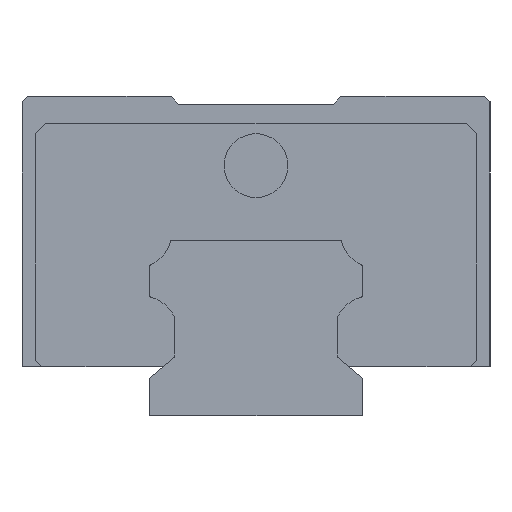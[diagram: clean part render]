
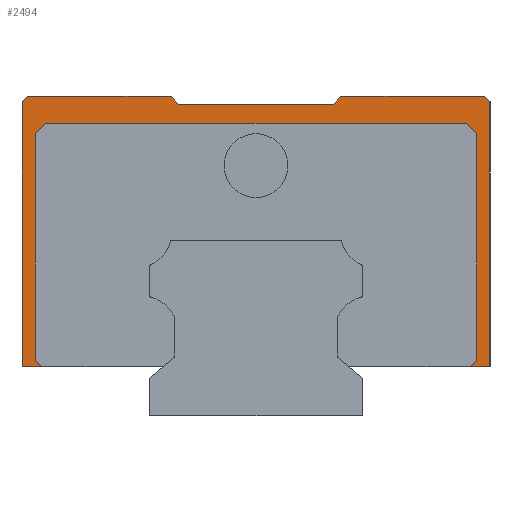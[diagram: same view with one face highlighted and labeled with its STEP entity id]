
A CAD part, left-side view. The second image highlights one B-rep face of the part: STEP entity #2494.
In plain terms, the highlighted planar face has unit normal (-1, 0, 0).
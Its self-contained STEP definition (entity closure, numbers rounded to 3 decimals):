
#11 = LINE ( 'NONE', #447, #3813 ) ;
#28 = LINE ( 'NONE', #2334, #5950 ) ;
#31 = ORIENTED_EDGE ( 'NONE', *, *, #5033, .F. ) ;
#33 = DIRECTION ( 'NONE',  ( 0., 0., 1. ) ) ;
#56 = VERTEX_POINT ( 'NONE', #3659 ) ;
#57 = EDGE_CURVE ( 'NONE', #1154, #263, #2252, .T. ) ;
#77 = VERTEX_POINT ( 'NONE', #5987 ) ;
#109 = ORIENTED_EDGE ( 'NONE', *, *, #2379, .F. ) ;
#128 = EDGE_CURVE ( 'NONE', #1164, #77, #4271, .T. ) ;
#170 = EDGE_CURVE ( 'NONE', #56, #4880, #2937, .T. ) ;
#184 = CARTESIAN_POINT ( 'NONE',  ( -39., 11.775, -3.775 ) ) ;
#263 = VERTEX_POINT ( 'NONE', #1172 ) ;
#299 = VECTOR ( 'NONE', #1305, 1000. ) ;
#333 = LINE ( 'NONE', #4065, #299 ) ;
#340 = DIRECTION ( 'NONE',  ( 0., 1., 0. ) ) ;
#348 = DIRECTION ( 'NONE',  ( 0., -1., 0. ) ) ;
#350 = CARTESIAN_POINT ( 'NONE',  ( -39., 7.333, 29.25 ) ) ;
#383 = CARTESIAN_POINT ( 'NONE',  ( -39., 20.75, 5.2 ) ) ;
#447 = CARTESIAN_POINT ( 'NONE',  ( -39., -22., 28. ) ) ;
#464 = CARTESIAN_POINT ( 'NONE',  ( -39., -20.75, 5.2 ) ) ;
#527 = PLANE ( 'NONE',  #3060 ) ;
#648 = VECTOR ( 'NONE', #5174, 1000. ) ;
#705 = EDGE_CURVE ( 'NONE', #2345, #5877, #2170, .T. ) ;
#740 = DIRECTION ( 'NONE',  ( 0., 1., 0. ) ) ;
#798 = CARTESIAN_POINT ( 'NONE',  ( -39., 22., 30. ) ) ;
#824 = ORIENTED_EDGE ( 'NONE', *, *, #1370, .T. ) ;
#835 = CARTESIAN_POINT ( 'NONE',  ( -39., 20.15, 4.6 ) ) ;
#908 = ORIENTED_EDGE ( 'NONE', *, *, #57, .T. ) ;
#953 = LINE ( 'NONE', #983, #1945 ) ;
#983 = CARTESIAN_POINT ( 'NONE',  ( -39., 22., 4.6 ) ) ;
#1106 = ORIENTED_EDGE ( 'NONE', *, *, #1609, .F. ) ;
#1154 = VERTEX_POINT ( 'NONE', #5432 ) ;
#1164 = VERTEX_POINT ( 'NONE', #2162 ) ;
#1172 = CARTESIAN_POINT ( 'NONE',  ( -39., -7.333, 29.25 ) ) ;
#1236 = DIRECTION ( 'NONE',  ( 0., 0.707, -0.707 ) ) ;
#1237 = VERTEX_POINT ( 'NONE', #383 ) ;
#1239 = VECTOR ( 'NONE', #4237, 1000. ) ;
#1252 = EDGE_CURVE ( 'NONE', #2854, #1237, #6021, .T. ) ;
#1305 = DIRECTION ( 'NONE',  ( 0., 0.707, 0.707 ) ) ;
#1324 = CARTESIAN_POINT ( 'NONE',  ( -39., -7.963, 30. ) ) ;
#1370 = EDGE_CURVE ( 'NONE', #263, #6127, #4394, .T. ) ;
#1476 = DIRECTION ( 'NONE',  ( 0., 0.707, -0.707 ) ) ;
#1507 = CARTESIAN_POINT ( 'NONE',  ( -39., -22., 30. ) ) ;
#1565 = DIRECTION ( 'NONE',  ( 0., -0.707, -0.707 ) ) ;
#1567 = VECTOR ( 'NONE', #5048, 1000. ) ;
#1609 = EDGE_CURVE ( 'NONE', #5488, #2854, #3597, .T. ) ;
#1633 = VECTOR ( 'NONE', #1476, 1000. ) ;
#1637 = EDGE_CURVE ( 'NONE', #6127, #5198, #3162, .T. ) ;
#1780 = VECTOR ( 'NONE', #1844, 1000. ) ;
#1784 = VECTOR ( 'NONE', #3550, 1000. ) ;
#1844 = DIRECTION ( 'NONE',  ( 0., 0., -1. ) ) ;
#1891 = EDGE_CURVE ( 'NONE', #5877, #1905, #333, .T. ) ;
#1905 = VERTEX_POINT ( 'NONE', #2200 ) ;
#1945 = VECTOR ( 'NONE', #33, 1000. ) ;
#1972 = CARTESIAN_POINT ( 'NONE',  ( -39., 22., 4.6 ) ) ;
#2128 = EDGE_CURVE ( 'NONE', #3501, #4258, #4469, .T. ) ;
#2133 = VECTOR ( 'NONE', #1565, 1000. ) ;
#2141 = CARTESIAN_POINT ( 'NONE',  ( -39., -21.5, 30. ) ) ;
#2162 = CARTESIAN_POINT ( 'NONE',  ( -39., -22., 4.6 ) ) ;
#2170 = LINE ( 'NONE', #4599, #2843 ) ;
#2200 = CARTESIAN_POINT ( 'NONE',  ( -39., -19.75, 27.5 ) ) ;
#2237 = ORIENTED_EDGE ( 'NONE', *, *, #128, .F. ) ;
#2252 = LINE ( 'NONE', #1324, #648 ) ;
#2305 = CARTESIAN_POINT ( 'NONE',  ( -39., 7.963, 30. ) ) ;
#2325 = ORIENTED_EDGE ( 'NONE', *, *, #5439, .F. ) ;
#2334 = CARTESIAN_POINT ( 'NONE',  ( -39., -33.775, 18.225 ) ) ;
#2345 = VERTEX_POINT ( 'NONE', #464 ) ;
#2371 = CARTESIAN_POINT ( 'NONE',  ( -39., -20.75, 26.5 ) ) ;
#2379 = EDGE_CURVE ( 'NONE', #5570, #4880, #953, .T. ) ;
#2494 = ADVANCED_FACE ( 'NONE', ( #3338 ), #527, .F. ) ;
#2578 = VECTOR ( 'NONE', #740, 1000. ) ;
#2583 = VECTOR ( 'NONE', #340, 1000. ) ;
#2621 = ORIENTED_EDGE ( 'NONE', *, *, #3275, .F. ) ;
#2649 = LINE ( 'NONE', #4009, #2583 ) ;
#2717 = ORIENTED_EDGE ( 'NONE', *, *, #1637, .T. ) ;
#2719 = LINE ( 'NONE', #798, #4055 ) ;
#2745 = LINE ( 'NONE', #6011, #2578 ) ;
#2843 = VECTOR ( 'NONE', #5411, 1000. ) ;
#2854 = VERTEX_POINT ( 'NONE', #4808 ) ;
#2937 = LINE ( 'NONE', #3804, #1633 ) ;
#3001 = DIRECTION ( 'NONE',  ( 0., 1., 0. ) ) ;
#3028 = ORIENTED_EDGE ( 'NONE', *, *, #5202, .F. ) ;
#3060 = AXIS2_PLACEMENT_3D ( 'NONE', #1507, #4360, #3001 ) ;
#3162 = LINE ( 'NONE', #350, #1567 ) ;
#3190 = CARTESIAN_POINT ( 'NONE',  ( -39., 7.333, 29.25 ) ) ;
#3275 = EDGE_CURVE ( 'NONE', #3501, #1164, #11, .T. ) ;
#3338 = FACE_OUTER_BOUND ( 'NONE', #5310, .T. ) ;
#3340 = CARTESIAN_POINT ( 'NONE',  ( -39., -22., 4.6 ) ) ;
#3435 = CARTESIAN_POINT ( 'NONE',  ( -39., -22., 29.5 ) ) ;
#3456 = VERTEX_POINT ( 'NONE', #835 ) ;
#3501 = VERTEX_POINT ( 'NONE', #3600 ) ;
#3550 = DIRECTION ( 'NONE',  ( 0., -1., 0. ) ) ;
#3597 = LINE ( 'NONE', #5494, #4239 ) ;
#3600 = CARTESIAN_POINT ( 'NONE',  ( -39., -22., 29.5 ) ) ;
#3641 = CARTESIAN_POINT ( 'NONE',  ( -39., 22., 30. ) ) ;
#3656 = EDGE_CURVE ( 'NONE', #1237, #3456, #4419, .T. ) ;
#3659 = CARTESIAN_POINT ( 'NONE',  ( -39., 21.5, 30. ) ) ;
#3804 = CARTESIAN_POINT ( 'NONE',  ( -39., 21.5, 30. ) ) ;
#3813 = VECTOR ( 'NONE', #6112, 1000. ) ;
#4009 = CARTESIAN_POINT ( 'NONE',  ( -39., 9., 4.6 ) ) ;
#4055 = VECTOR ( 'NONE', #348, 1000. ) ;
#4065 = CARTESIAN_POINT ( 'NONE',  ( -39., -19.625, 27.625 ) ) ;
#4131 = ORIENTED_EDGE ( 'NONE', *, *, #2128, .T. ) ;
#4222 = EDGE_CURVE ( 'NONE', #3456, #5570, #2649, .T. ) ;
#4237 = DIRECTION ( 'NONE',  ( 0., 1., 0. ) ) ;
#4239 = VECTOR ( 'NONE', #1236, 1000. ) ;
#4258 = VERTEX_POINT ( 'NONE', #2141 ) ;
#4271 = LINE ( 'NONE', #3340, #1239 ) ;
#4360 = DIRECTION ( 'NONE',  ( 1., 0., 0. ) ) ;
#4384 = ORIENTED_EDGE ( 'NONE', *, *, #1891, .F. ) ;
#4394 = LINE ( 'NONE', #5301, #5137 ) ;
#4419 = LINE ( 'NONE', #184, #2133 ) ;
#4469 = LINE ( 'NONE', #3435, #4728 ) ;
#4541 = CARTESIAN_POINT ( 'NONE',  ( -39., 19.75, 27.5 ) ) ;
#4599 = CARTESIAN_POINT ( 'NONE',  ( -39., -20.75, 30. ) ) ;
#4728 = VECTOR ( 'NONE', #4829, 1000. ) ;
#4786 = DIRECTION ( 'NONE',  ( 0., -0.707, 0.707 ) ) ;
#4794 = ORIENTED_EDGE ( 'NONE', *, *, #4222, .F. ) ;
#4796 = CARTESIAN_POINT ( 'NONE',  ( -39., 22., 29.5 ) ) ;
#4808 = CARTESIAN_POINT ( 'NONE',  ( -39., 20.75, 26.5 ) ) ;
#4829 = DIRECTION ( 'NONE',  ( 0., 0.707, 0.707 ) ) ;
#4880 = VERTEX_POINT ( 'NONE', #4796 ) ;
#5033 = EDGE_CURVE ( 'NONE', #1905, #5488, #2745, .T. ) ;
#5048 = DIRECTION ( 'NONE',  ( 0., 0.643, 0.766 ) ) ;
#5076 = EDGE_CURVE ( 'NONE', #56, #5198, #2719, .T. ) ;
#5137 = VECTOR ( 'NONE', #5331, 1000. ) ;
#5174 = DIRECTION ( 'NONE',  ( 0., 0.643, -0.766 ) ) ;
#5198 = VERTEX_POINT ( 'NONE', #2305 ) ;
#5202 = EDGE_CURVE ( 'NONE', #77, #2345, #28, .T. ) ;
#5301 = CARTESIAN_POINT ( 'NONE',  ( -39., -7.333, 29.25 ) ) ;
#5310 = EDGE_LOOP ( 'NONE', ( #5874, #5356, #1106, #31, #4384, #5811, #3028, #2237, #2621, #4131, #2325, #908, #824, #2717, #6089, #5656, #109, #4794 ) ) ;
#5331 = DIRECTION ( 'NONE',  ( 0., 1., 0. ) ) ;
#5356 = ORIENTED_EDGE ( 'NONE', *, *, #1252, .F. ) ;
#5411 = DIRECTION ( 'NONE',  ( 0., 0., 1. ) ) ;
#5432 = CARTESIAN_POINT ( 'NONE',  ( -39., -7.963, 30. ) ) ;
#5439 = EDGE_CURVE ( 'NONE', #1154, #4258, #5572, .T. ) ;
#5488 = VERTEX_POINT ( 'NONE', #4541 ) ;
#5494 = CARTESIAN_POINT ( 'NONE',  ( -39., -2.375, 49.625 ) ) ;
#5560 = CARTESIAN_POINT ( 'NONE',  ( -39., 20.75, 30. ) ) ;
#5570 = VERTEX_POINT ( 'NONE', #1972 ) ;
#5572 = LINE ( 'NONE', #3641, #1784 ) ;
#5656 = ORIENTED_EDGE ( 'NONE', *, *, #170, .T. ) ;
#5811 = ORIENTED_EDGE ( 'NONE', *, *, #705, .F. ) ;
#5874 = ORIENTED_EDGE ( 'NONE', *, *, #3656, .F. ) ;
#5877 = VERTEX_POINT ( 'NONE', #2371 ) ;
#5950 = VECTOR ( 'NONE', #4786, 1000. ) ;
#5987 = CARTESIAN_POINT ( 'NONE',  ( -39., -20.15, 4.6 ) ) ;
#6011 = CARTESIAN_POINT ( 'NONE',  ( -39., -22., 27.5 ) ) ;
#6021 = LINE ( 'NONE', #5560, #1780 ) ;
#6089 = ORIENTED_EDGE ( 'NONE', *, *, #5076, .F. ) ;
#6112 = DIRECTION ( 'NONE',  ( 0., 0., -1. ) ) ;
#6127 = VERTEX_POINT ( 'NONE', #3190 ) ;
